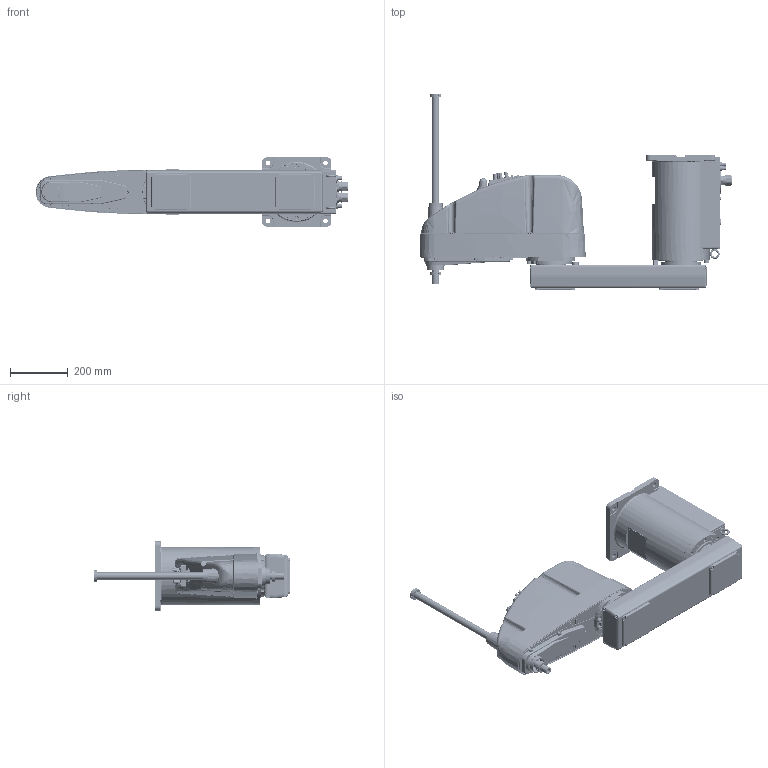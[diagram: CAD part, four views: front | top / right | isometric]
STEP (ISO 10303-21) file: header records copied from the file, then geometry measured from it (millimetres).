
FILE_DESCRIPTION((''),'2;1');
FILE_NAME('G10-854SR_ASM','2009-07-10T',('0179539'),(''),'PRO/ENGINEER BY PARAMETRIC TECHNOLOGY CORPORATION, 2006510','PRO/ENGINEER BY PARAMETRIC TECHNOLOGY CORPORATION, 2006510','');
FILE_SCHEMA(('AUTOMOTIVE_DESIGN_CC2 { 1 2 10303 214 -1 1 5 2 }'));
Length unit declared in the file: millimetre
Products named in the file (5): BASE_SR; J1_SWR_85; J2_SR-85; SHAFT_430-85; G10-854SR_ASM
Assembly tree (4 placements, depth 2):
  G10-854SR_ASM
    BASE_SR
    J1_SWR_85
    J2_SR-85
    SHAFT_430-85
Bounding box: 1084.34 x 681.5 x 240 mm (x, y, z)
Volume: 10723566.8 mm3; surface area: 3116473.2 mm2
Topology: 4 solids, 8 shells, 4771 faces, 12052 edges, 7690 vertices
Faces by surface type: plane 2325, cylinder 1565, cone 464, bspline 237, torus 177, sphere 2, extrusion 1
Entity records: 201485 total; most frequent: CARTESIAN_POINT 51955, DIRECTION 24077, ORIENTED_EDGE 23908, EDGE_CURVE 11954, AXIS2_PLACEMENT_3D 8513, VERTEX_POINT 7690, VECTOR 7051, LINE 7050
